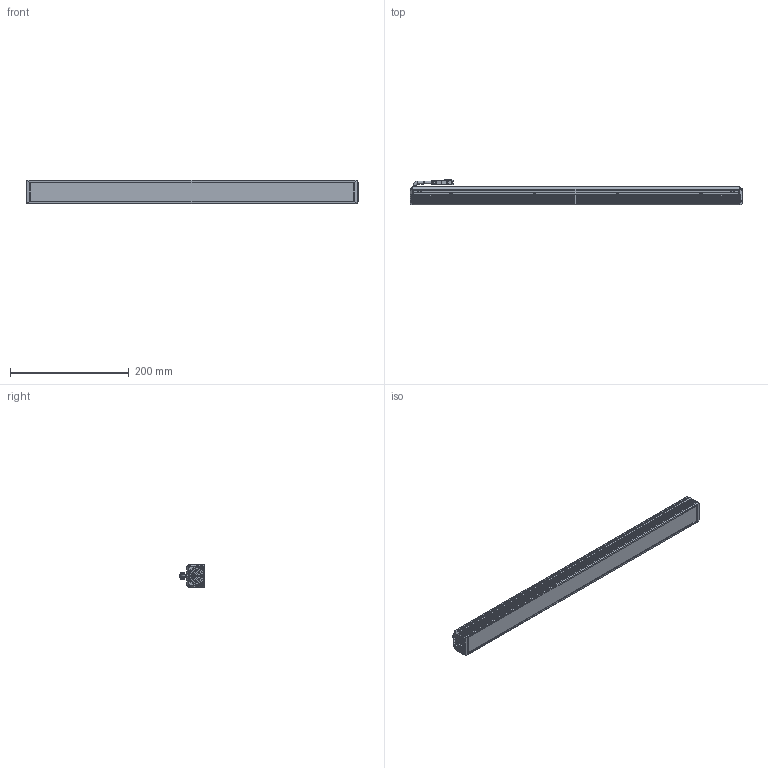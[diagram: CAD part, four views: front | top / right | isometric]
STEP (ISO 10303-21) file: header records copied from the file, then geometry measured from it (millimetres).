
FILE_DESCRIPTION((''),'2;1');
FILE_NAME('MV-LLDS-H-600-40-W-PL_ASM','2024-04-08T14:24:43',('huguozhe'),(''),'CREO PARAMETRIC BY PTC INC, 2020044','CREO PARAMETRIC BY PTC INC, 2020044','');
FILE_SCHEMA(('AUTOMOTIVE_DESIGN { 1 0 10303 214 1 1 1 1 }'));
Length unit declared in the file: millimetre
Products named in the file (15): DE-15-001237; DE-15-001236_ASM; DE-15-000516; DE-15-000515_ASM; DE-12-002350; TIP-M3X4-4_5X5-SO-ET-07061033; DE-12-002350_ASM; DE-12-001600; SC-KM2X6-BNI-GB819; XIANLAN_HEAD; CABLE_HEAD; CABLE_HEAD_ASM_ASM; 190100852; SC-PM2X6B-JMP; MV-LLDS-H-600-40-W-PL_ASM
Assembly tree (33 placements, depth 3):
  MV-LLDS-H-600-40-W-PL_ASM
    DE-15-001236_ASM
      DE-15-001237
    DE-15-000515_ASM
      DE-15-000516
    DE-12-002350_ASM  x2
      DE-12-002350
      TIP-M3X4-4_5X5-SO-ET-07061033
    DE-12-001600
    SC-KM2X6-BNI-GB819  x4
    CABLE_HEAD_ASM_ASM
      XIANLAN_HEAD
      CABLE_HEAD
    190100852  x8
    SC-PM2X6B-JMP  x8
Bounding box: 558 x 42.65 x 40 mm (x, y, z)
Volume: 518648.4 mm3; surface area: 264319 mm2
Topology: 31 solids, 67 shells, 2821 faces, 7293 edges, 4595 vertices
Faces by surface type: plane 1364, cylinder 589, bspline 472, cone 337, torus 50, sphere 8, extrusion 1
Entity records: 48881 total; most frequent: CARTESIAN_POINT 11370, ORIENTED_EDGE 6304, DIRECTION 6081, EDGE_CURVE 3184, VERTEX_POINT 2042, VECTOR 2037, LINE 2036, AXIS2_PLACEMENT_3D 2022
